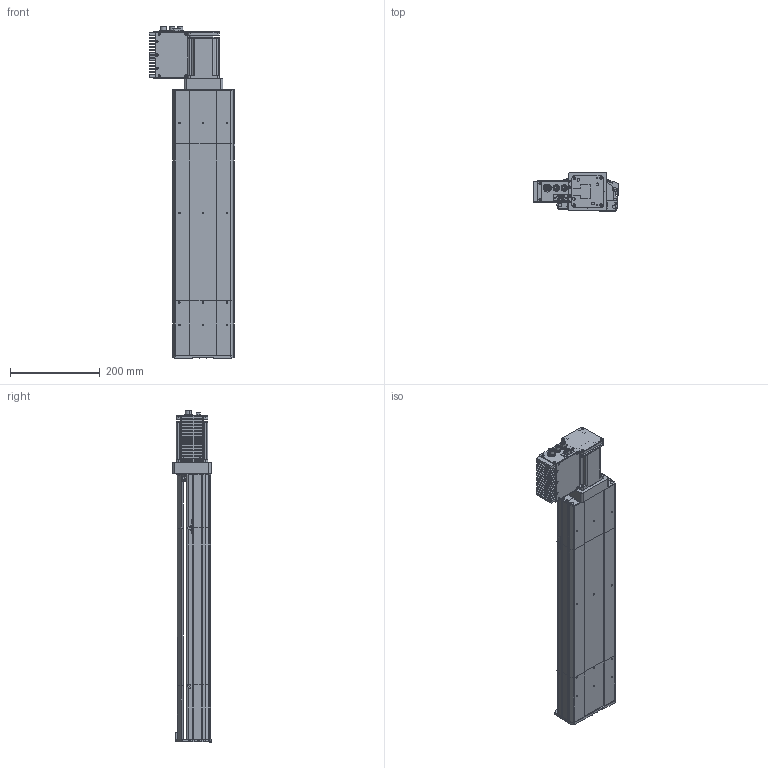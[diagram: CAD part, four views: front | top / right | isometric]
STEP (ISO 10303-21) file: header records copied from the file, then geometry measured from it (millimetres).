
FILE_DESCRIPTION (( 'STEP AP203' ), '1' );
FILE_NAME ('D14 TSH M4 MD L10 S350.STEP', '2012-10-08T07:47:51', ( '' ), ( '' ), 'SwSTEP 2.0', 'SolidWorks 2010', '' );
FILE_SCHEMA (( 'CONFIG_CONTROL_DESIGN' ));
Length unit declared in the file: millimetre
Products named in the file (23): plaque de  bout head D14 MD_Default_2; Moteur_2; T犨e contre le moteur_2; Couvercle_2; Tôle latérale_2; Connecteur rond D12 4cts_2; corpl 350_Default_2; couvercle D14 head_Default_2; D14 TSH M4 MD L10 S350; corp head D14_Default_2; couvercle D14 course L350_Default_2; Plaque racord D10.2_Default_2; corpl tail D14_Default_2; couvercle D14_Default_2; Sub D 9cts_2; T犨e fond_2; Connecteur rond D10 3cts_2; Tôle Arrière_2; Moteur 70BLDC90A_2; Colonnette_2; Radiateur_2; Vis TF 3 torkx_2; plaque de  bout tail D14_Default_2
Assembly tree (49 placements, depth 3):
  D14 TSH M4 MD L10 S350
    couvercle D14 head_Default_2
    plaque de  bout head D14 MD_Default_2
    corp head D14_Default_2
    Plaque racord D10.2_Default_2
    couvercle D14 course L350_Default_2
    Moteur_2
      Vis TF 3 torkx_2  x26
      Tôle latérale_2  x2
      Couvercle_2
      Connecteur rond D12 4cts_2
      Tôle Arrière_2
      Sub D 9cts_2
      Connecteur rond D10 3cts_2  x2
      Moteur 70BLDC90A_2
      T犨e fond_2
      T犨e contre le moteur_2
      Colonnette_2
      Radiateur_2
    corpl 350_Default_2
    couvercle D14_Default_2
    corpl tail D14_Default_2
    plaque de  bout tail D14_Default_2
Bounding box: 191.77 x 86.05 x 740.8 mm (x, y, z)
Volume: 2365420.8 mm3; surface area: 826278.7 mm2
Topology: 70 solids, 70 shells, 2390 faces, 6225 edges, 4105 vertices
Faces by surface type: plane 1274, cylinder 852, cone 134, bspline 130
Entity records: 64589 total; most frequent: CARTESIAN_POINT 20808, ORIENTED_EDGE 8504, DIRECTION 8184, EDGE_CURVE 4252, VERTEX_POINT 2811, VECTOR 2802, LINE 2802, AXIS2_PLACEMENT_3D 2691
